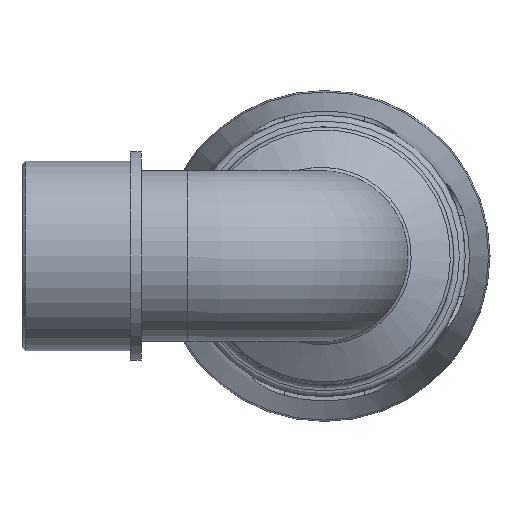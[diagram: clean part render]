
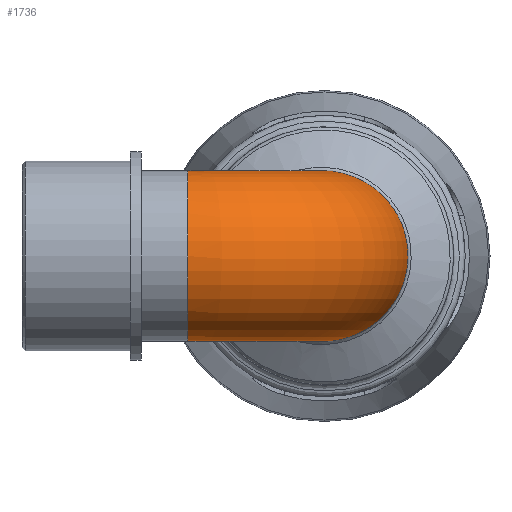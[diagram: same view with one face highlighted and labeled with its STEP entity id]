
A CAD part, left-side view. The second image highlights one B-rep face of the part: STEP entity #1736.
In plain terms, the highlighted toroidal (fillet/blend) face has major radius 23.935 mm and minor radius 14.962 mm.
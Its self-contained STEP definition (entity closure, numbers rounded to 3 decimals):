
#80=TOROIDAL_SURFACE('',#1855,23.935,14.962);
#90=FACE_BOUND('',#436,.T.);
#319=FACE_OUTER_BOUND('',#435,.T.);
#435=EDGE_LOOP('',(#1149));
#436=EDGE_LOOP('',(#1150));
#557=B_SPLINE_CURVE_WITH_KNOTS('',3,(#2617,#2618,#2619,#2620,#2621,#2622,
#2623,#2624,#2625,#2626,#2627,#2628,#2629,#2630,#2631,#2632,#2633),
 .UNSPECIFIED.,.T.,.F.,(4,1,1,1,1,1,1,1,1,1,1,1,1,1,4),(-3.142,
-2.693,-2.244,-1.795,-1.346,
-1.047,-0.449,-0.15,0.449,
0.898,1.346,1.795,2.244,2.693,
3.142),.UNSPECIFIED.);
#631=CIRCLE('',#1850,14.962);
#721=VERTEX_POINT('',#2615);
#728=VERTEX_POINT('',#2866);
#882=EDGE_CURVE('',#721,#721,#557,.T.);
#892=EDGE_CURVE('',#728,#728,#631,.T.);
#1149=ORIENTED_EDGE('',*,*,#882,.F.);
#1150=ORIENTED_EDGE('',*,*,#892,.T.);
#1736=ADVANCED_FACE('',(#319,#90),#80,.T.);
#1850=AXIS2_PLACEMENT_3D('',#2867,#2066,#2067);
#1855=AXIS2_PLACEMENT_3D('',#2875,#2076,#2077);
#2066=DIRECTION('center_axis',(0.,-1.,0.));
#2067=DIRECTION('ref_axis',(-1.,0.,0.));
#2076=DIRECTION('center_axis',(0.,0.,1.));
#2077=DIRECTION('ref_axis',(1.,0.,0.));
#2615=CARTESIAN_POINT('',(18.483,16.808,0.));
#2617=CARTESIAN_POINT('Ctrl Pts',(18.485,16.811,0.));
#2618=CARTESIAN_POINT('Ctrl Pts',(18.485,16.811,2.268));
#2619=CARTESIAN_POINT('Ctrl Pts',(18.482,15.425,6.806));
#2620=CARTESIAN_POINT('Ctrl Pts',(18.564,10.677,12.019));
#2621=CARTESIAN_POINT('Ctrl Pts',(18.66,4.322,15.028));
#2622=CARTESIAN_POINT('Ctrl Pts',(18.72,-1.914,15.123));
#2623=CARTESIAN_POINT('Ctrl Pts',(18.766,-8.42,12.743));
#2624=CARTESIAN_POINT('Ctrl Pts',(18.788,-12.823,8.172));
#2625=CARTESIAN_POINT('Ctrl Pts',(18.798,-15.152,0.835));
#2626=CARTESIAN_POINT('Ctrl Pts',(18.793,-14.062,-6.228));
#2627=CARTESIAN_POINT('Ctrl Pts',(18.769,-9.08,-12.242));
#2628=CARTESIAN_POINT('Ctrl Pts',(18.727,-2.702,-15.14));
#2629=CARTESIAN_POINT('Ctrl Pts',(18.66,4.325,-15.026));
#2630=CARTESIAN_POINT('Ctrl Pts',(18.564,10.677,-12.022));
#2631=CARTESIAN_POINT('Ctrl Pts',(18.482,15.425,-6.804));
#2632=CARTESIAN_POINT('Ctrl Pts',(18.485,16.811,-2.268));
#2633=CARTESIAN_POINT('Ctrl Pts',(18.485,16.811,0.));
#2866=CARTESIAN_POINT('',(14.962,23.935,0.));
#2867=CARTESIAN_POINT('Origin',(0.,23.935,0.));
#2875=CARTESIAN_POINT('Origin',(23.935,23.935,0.));
